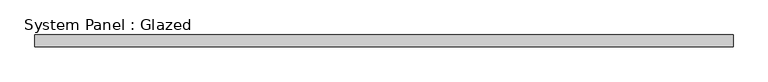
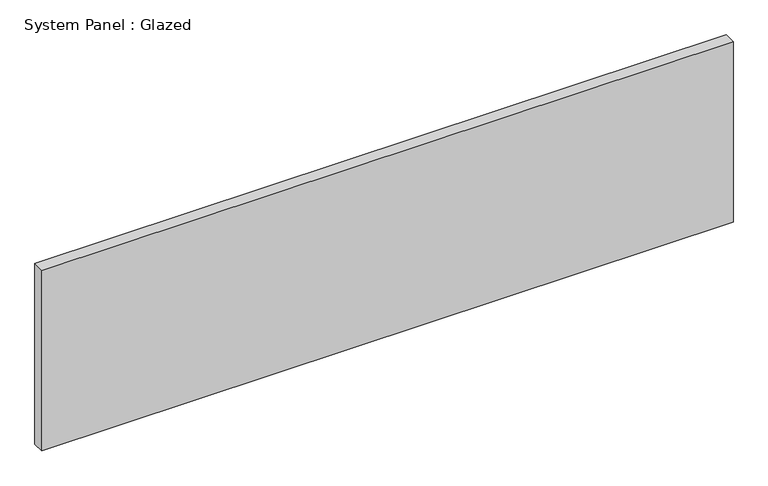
"""IFC4 building model written with IfcOpenShell, lengths in millimetres: plate geometry, System Panel : Glazed."""

from ifc_helpers import new_model, si_unit, origin, origin_with_axes, place, context, project, spatial, polyline, outline, extrude, source, transform, mapped, element, save


def system_panel_glazed_b767e4ab(model_context):
    return source(origin(), model_context, "Body", "SweptSolid", [
        extrude(outline(polyline([(736.9999999, -49.5), (-736.9999999, -49.5), (-736.9999999, -24.5), (736.9999999, -24.5), (736.9999999, -49.5)])), origin_with_axes(), (0.0, 0.0, 1.0), 407.2),
    ])


if __name__ == "__main__":
    model = new_model("IFC4")
    model_context = context("Model", 3, world=origin())
    ifc_project = project(units=[si_unit("LENGTHUNIT", "METRE", prefix="MILLI")], contexts=[model_context])
    site = spatial("IfcSite", under=ifc_project)
    building = spatial("IfcBuilding", under=site)
    placement = place(None, origin())
    system_panel_glazed_shape = system_panel_glazed_b767e4ab(model_context)
    element("IfcPlate", 1, ObjectType="System Panel : Glazed", at=placement, inside=building, context=model_context, shape_type="MappedRepresentation", body=[
        mapped(system_panel_glazed_shape, transform((0.0, 0.0, 0.0), x_axis=(1.0, 0.0, 0.0), y_axis=(0.0, 1.0, 0.0), z_axis=(0.0, 0.0, 1.0))),
    ])
    save(model, "model.ifc")
